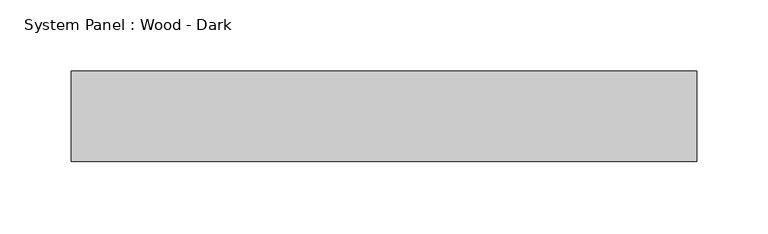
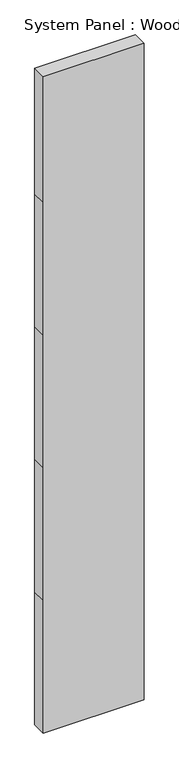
"""IFC4 building model written with IfcOpenShell, lengths in millimetres: plate geometry, System Panel : Wood - Dark."""

from ifc_helpers import new_model, si_unit, frame, origin, place, context, project, spatial, polyline, outline, extrude, source, transform, mapped, element, save


def system_panel_wood_dark_6d0ec728(model_context):
    return source(origin(), model_context, "Body", "SweptSolid", [
        extrude(outline(polyline([(0.0, -219.075), (0.0, 219.075), (609.6, 219.075), (1219.2, 219.075), (1828.8, 219.075), (2438.4, 219.075), (3016.25, 219.075), (3016.25, -219.075), (2438.4, -219.075), (1828.8, -219.075), (1219.2, -219.075), (609.6, -219.075), (0.0, -219.075)])), frame((0.0, -44.45, 0.0), z_axis=(0.0, 1.0, 0.0), x_axis=(0.0, 0.0, 1.0)), (0.0, 0.0, 1.0), 63.5),
    ])


if __name__ == "__main__":
    model = new_model("IFC4")
    model_context = context("Model", 3, world=origin())
    ifc_project = project(units=[si_unit("LENGTHUNIT", "METRE", prefix="MILLI")], contexts=[model_context])
    site = spatial("IfcSite", under=ifc_project)
    building = spatial("IfcBuilding", under=site)
    placement = place(None, origin())
    system_panel_wood_dark_shape = system_panel_wood_dark_6d0ec728(model_context)
    element("IfcPlate", 1, ObjectType="System Panel : Wood - Dark", at=placement, inside=building, context=model_context, shape_type="MappedRepresentation", body=[
        mapped(system_panel_wood_dark_shape, transform((0.0, 0.0, 0.0), x_axis=(1.0, 0.0, 0.0), y_axis=(0.0, 1.0, 0.0), z_axis=(0.0, 0.0, 1.0))),
    ])
    save(model, "model.ifc")
